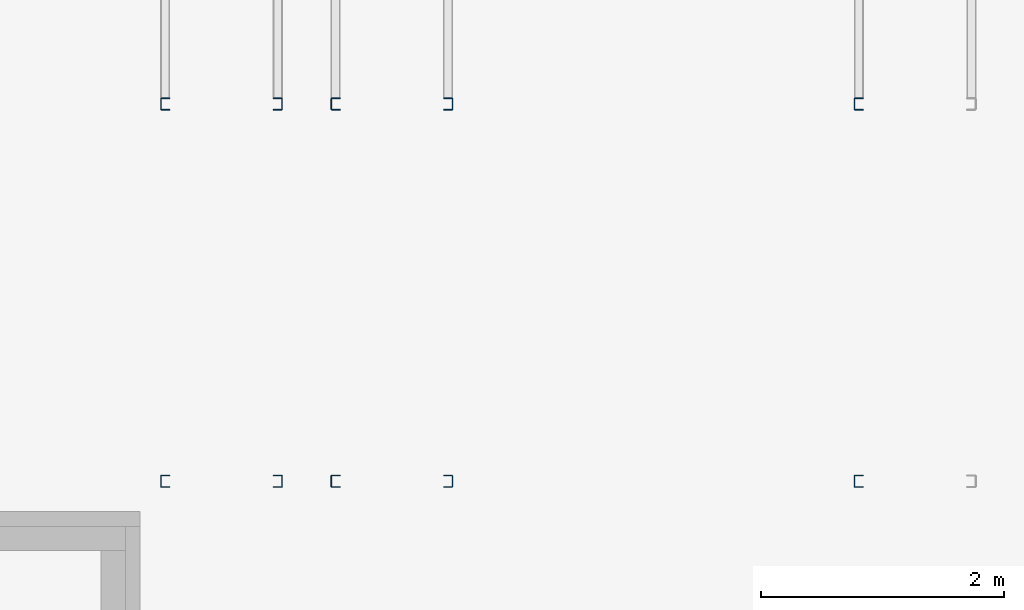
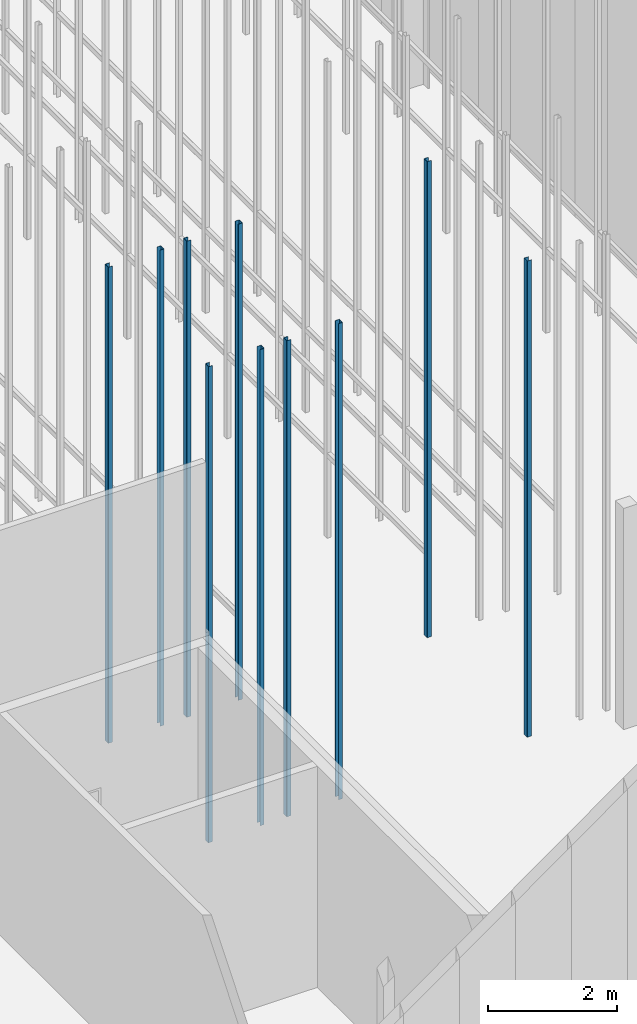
# One storey, part 11 of 302: 10 columns.
"""IFC2X3 building model written with IfcOpenShell, lengths in metres."""

from ifc_helpers import new_model, entity, si_unit, converted_unit, derived_unit, direction, frame, frame_2d, origin, place, context, subcontext, project, spatial, polyline, circle_curve, parameter, trimmed, segment, composite_curve, outline, extrude, source, transform, mapped, material, type_object, type_shapes, element, save


model = new_model("IFC2X3")

# Units and contexts
model_context = context("Model", 3, precision=1e-05, world=origin(), true_north=direction((6.12303176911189e-17, 1.0)))
body_context = subcontext(model_context, "Body", "Model", "MODEL_VIEW")
ifc_project = project(units=[si_unit("LENGTHUNIT", "METRE"), si_unit("AREAUNIT", "SQUARE_METRE"), si_unit("VOLUMEUNIT", "CUBIC_METRE"), converted_unit("PLANEANGLEUNIT", "DEGREE", entity("IfcRatioMeasure", 0.0174532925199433), si_unit("PLANEANGLEUNIT", "RADIAN"), dimensions=[0, 0, 0, 0, 0, 0, 0]), si_unit("MASSUNIT", "GRAM", prefix="KILO"), derived_unit("MASSDENSITYUNIT", [(si_unit("MASSUNIT", "GRAM", prefix="KILO"), 1), (si_unit("LENGTHUNIT", "METRE"), -3)]), derived_unit("MOMENTOFINERTIAUNIT", [(si_unit("LENGTHUNIT", "METRE"), 4)]), si_unit("TIMEUNIT", "SECOND"), si_unit("FREQUENCYUNIT", "HERTZ"), si_unit("THERMODYNAMICTEMPERATUREUNIT", "DEGREE_CELSIUS"), derived_unit("THERMALTRANSMITTANCEUNIT", [(si_unit("MASSUNIT", "GRAM", prefix="KILO"), 1), (si_unit("THERMODYNAMICTEMPERATUREUNIT", "KELVIN"), -1), (si_unit("TIMEUNIT", "SECOND"), -3)]), derived_unit("VOLUMETRICFLOWRATEUNIT", [(si_unit("LENGTHUNIT", "METRE"), 3), (si_unit("TIMEUNIT", "SECOND"), -1)]), si_unit("ELECTRICCURRENTUNIT", "AMPERE"), si_unit("ELECTRICVOLTAGEUNIT", "VOLT"), si_unit("POWERUNIT", "WATT"), si_unit("FORCEUNIT", "NEWTON", prefix="KILO"), si_unit("ILLUMINANCEUNIT", "LUX"), si_unit("LUMINOUSFLUXUNIT", "LUMEN"), si_unit("LUMINOUSINTENSITYUNIT", "CANDELA"), derived_unit("USERDEFINED", [(si_unit("MASSUNIT", "GRAM", prefix="KILO"), -1), (si_unit("LENGTHUNIT", "METRE"), -2), (si_unit("TIMEUNIT", "SECOND"), 3), (si_unit("LUMINOUSFLUXUNIT", "LUMEN"), 1)]), derived_unit("LINEARVELOCITYUNIT", [(si_unit("LENGTHUNIT", "METRE"), 1), (si_unit("TIMEUNIT", "SECOND"), -1)]), si_unit("PRESSUREUNIT", "PASCAL"), derived_unit("USERDEFINED", [(si_unit("LENGTHUNIT", "METRE"), -2), (si_unit("MASSUNIT", "GRAM", prefix="KILO"), 1), (si_unit("TIMEUNIT", "SECOND"), -2)]), derived_unit("LINEARFORCEUNIT", [(si_unit("MASSUNIT", "GRAM", prefix="KILO"), 1), (si_unit("LENGTHUNIT", "METRE"), 1), (si_unit("TIMEUNIT", "SECOND"), -2), (si_unit("LENGTHUNIT", "METRE"), -1)]), derived_unit("PLANARFORCEUNIT", [(si_unit("MASSUNIT", "GRAM", prefix="KILO"), 1), (si_unit("LENGTHUNIT", "METRE"), 1), (si_unit("TIMEUNIT", "SECOND"), -2), (si_unit("LENGTHUNIT", "METRE"), -2)])], contexts=[model_context])

# Site, building, storey
site_placement = place(None, origin())
site = spatial("IfcSite", under=ifc_project, at=site_placement, Name="Default", CompositionType="ELEMENT")
building_placement = place(site_placement, origin())
building = spatial("IfcBuilding", under=site, at=building_placement, CompositionType="ELEMENT")
storey_placement = place(building_placement, frame((0.0, 0.0, -1.3)))
storey = spatial("IfcBuildingStorey", under=building, at=storey_placement, Name="00_EG", CompositionType="ELEMENT", Elevation=-1.3)

# Columns
ifc_material = material(Name="Metall - Baustahl S235")
column_type_1 = type_object("IfcColumnType", Name="Leichter Stahl Schlossschrauben Stütze:C 100", PredefinedType="COLUMN", material=ifc_material)
shared_shape_1 = source(origin(), body_context, "Body", "SweptSolid", [
    extrude(outline(composite_curve([segment(polyline([(-0.0469749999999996, -0.0499999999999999), (0.0214500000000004, -0.0499999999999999)]), True, "CONTINUOUS"), segment(trimmed(circle_curve(frame_2d((0.0214500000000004, -0.0434249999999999), x_axis=(0.0, -1.0)), 0.00657500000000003), [parameter(0.0)], [parameter(89.9999999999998)], True, "PARAMETER"), True, "CONTINUOUS"), segment(polyline([(0.0280250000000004, -0.0434249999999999), (0.0280250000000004, 0.0434250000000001)]), True, "CONTINUOUS"), segment(trimmed(circle_curve(frame_2d((0.0214500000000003, 0.0434250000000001), x_axis=(1.0, 0.0)), 0.0065750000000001), [parameter(0.0)], [parameter(89.9999999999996)], True, "PARAMETER"), True, "CONTINUOUS"), segment(polyline([(0.0214500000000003, 0.0500000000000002), (-0.0469750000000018, 0.0500000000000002)]), True, "CONTINUOUS"), segment(polyline([(-0.0469750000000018, 0.0500000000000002), (-0.0469750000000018, 0.0450000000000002)]), True, "CONTINUOUS"), segment(polyline([(-0.0469750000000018, 0.0450000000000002), (0.0214500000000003, 0.0450000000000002)]), True, "CONTINUOUS"), segment(trimmed(circle_curve(frame_2d((0.0214500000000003, 0.0434249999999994), x_axis=(0.0, 1.0)), 0.00157500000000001), [parameter(269.999999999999)], [parameter(0.0)], True, "PARAMETER"), False, "CONTINUOUS"), segment(polyline([(0.0230250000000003, 0.0434249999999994), (0.0230250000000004, -0.0434249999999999)]), True, "CONTINUOUS"), segment(trimmed(circle_curve(frame_2d((0.0214500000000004, -0.0434249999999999), x_axis=(1.0, 0.0)), 0.00157500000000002), [parameter(270.0)], [parameter(0.0)], True, "PARAMETER"), False, "CONTINUOUS"), segment(polyline([(0.0214500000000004, -0.0449999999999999), (-0.0469749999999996, -0.0449999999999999)]), True, "CONTINUOUS"), segment(polyline([(-0.0469749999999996, -0.0449999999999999), (-0.0469749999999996, -0.0499999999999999)]), True, "CONTINUOUS")], self_intersect=False)), frame((0.0499999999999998, 0.0280250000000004, -0.0300000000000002), z_axis=(0.0, 0.0, 1.0), x_axis=(0.0, -1.0, 0.0)), (0.0, 0.0, 1.0), 9.0),
])
type_shapes(column_type_1, [shared_shape_1])
for number, where, z_axis, x_axis in (
    (1, (-190.790111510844, 27.148088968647, 1.3), (0.0, 0.0, 1.0), (0.0, -1.0, 0.0)),
    (2, (-190.790111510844, 24.048088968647, 1.3), (0.0, 0.0, 1.0), (0.0, -1.0, 0.0)),
    (3, (-189.390111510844, 27.148088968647, 1.3), (0.0, 0.0, 1.0), (0.0, -1.0, 0.0)),
    (4, (-189.390111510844, 24.048088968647, 1.3), (0.0, 0.0, 1.0), (0.0, -1.0, 0.0)),
    (5, (-185.090111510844, 27.148088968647, 1.3), (0.0, 0.0, 1.0), (0.0, -1.0, 0.0)),
    (6, (-185.090111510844, 24.048088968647, 1.3), (0.0, 0.0, 1.0), (0.0, -1.0, 0.0)),
):
    element("IfcColumn", number, at=place(storey_placement, frame(where, z_axis=z_axis, x_axis=x_axis)), inside=storey, type_object=column_type_1, material=ifc_material, Name="Leichter Stahl Schlossschrauben Stütze:C 100", ObjectType="Leichter Stahl Schlossschrauben Stütze:C 100", context=body_context, shape_type="MappedRepresentation", body=[
        mapped(shared_shape_1, transform((0.0, 0.0, 0.0), scale=1.0)),
    ])
column_type_2 = type_object("IfcColumnType", Name="Leichter Stahl Schlossschrauben Stütze:C 100", PredefinedType="COLUMN", material=ifc_material)
shared_shape_2 = source(origin(), body_context, "Body", "SweptSolid", [
    extrude(outline(composite_curve([segment(polyline([(-0.0214500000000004, -0.0499999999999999), (0.0469749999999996, -0.0499999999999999)]), True, "CONTINUOUS"), segment(polyline([(0.0469749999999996, -0.0499999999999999), (0.0469749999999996, -0.0449999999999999)]), True, "CONTINUOUS"), segment(polyline([(0.0469749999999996, -0.0449999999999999), (-0.0214500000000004, -0.045)]), True, "CONTINUOUS"), segment(trimmed(circle_curve(frame_2d((-0.0214500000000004, -0.043425), x_axis=(0.0, -1.0)), 0.00157500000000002), [parameter(270.0)], [parameter(0.0)], True, "PARAMETER"), False, "CONTINUOUS"), segment(polyline([(-0.0230250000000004, -0.0434249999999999), (-0.0230250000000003, 0.0434249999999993)]), True, "CONTINUOUS"), segment(trimmed(circle_curve(frame_2d((-0.0214500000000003, 0.0434249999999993), x_axis=(-1.0, 0.0)), 0.00157500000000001), [parameter(269.999999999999)], [parameter(0.0)], True, "PARAMETER"), False, "CONTINUOUS"), segment(polyline([(-0.0214500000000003, 0.0450000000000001), (0.0469750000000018, 0.0450000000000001)]), True, "CONTINUOUS"), segment(polyline([(0.0469750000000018, 0.0450000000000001), (0.0469750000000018, 0.0500000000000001)]), True, "CONTINUOUS"), segment(polyline([(0.0469750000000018, 0.0500000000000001), (-0.0214500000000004, 0.0500000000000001)]), True, "CONTINUOUS"), segment(trimmed(circle_curve(frame_2d((-0.0214500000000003, 0.043425), x_axis=(0.0, 1.0)), 0.0065750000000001), [parameter(0.0)], [parameter(89.9999999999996)], True, "PARAMETER"), True, "CONTINUOUS"), segment(polyline([(-0.0280250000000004, 0.043425), (-0.0280250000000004, -0.043425)]), True, "CONTINUOUS"), segment(trimmed(circle_curve(frame_2d((-0.0214500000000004, -0.0434249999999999), x_axis=(-1.0, 0.0)), 0.00657500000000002), [parameter(0.0)], [parameter(89.9999999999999)], True, "PARAMETER"), True, "CONTINUOUS")], self_intersect=False)), frame((0.0499999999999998, -0.0280250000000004, -0.0300000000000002), z_axis=(0.0, 0.0, 1.0), x_axis=(0.0, -1.0, 0.0)), (0.0, 0.0, 1.0), 9.0),
])
type_shapes(column_type_2, [shared_shape_2])
for number, where, z_axis, x_axis in (
    (7, (-189.790111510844, 27.148088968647, 1.3), (0.0, 0.0, 1.0), (0.0, -1.0, 0.0)),
    (8, (-189.790111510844, 24.048088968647, 1.3), (0.0, 0.0, 1.0), (0.0, -1.0, 0.0)),
    (9, (-188.390111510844, 27.148088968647, 1.3), (0.0, 0.0, 1.0), (0.0, -1.0, 0.0)),
    (10, (-188.390111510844, 24.048088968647, 1.3), (0.0, 0.0, 1.0), (0.0, -1.0, 0.0)),
):
    element("IfcColumn", number, at=place(storey_placement, frame(where, z_axis=z_axis, x_axis=x_axis)), inside=storey, type_object=column_type_2, material=ifc_material, Name="Leichter Stahl Schlossschrauben Stütze:C 100", ObjectType="Leichter Stahl Schlossschrauben Stütze:C 100", context=body_context, shape_type="MappedRepresentation", body=[
        mapped(shared_shape_2, transform((0.0, 0.0, 0.0), scale=1.0)),
    ])

save(model, "model.ifc")
